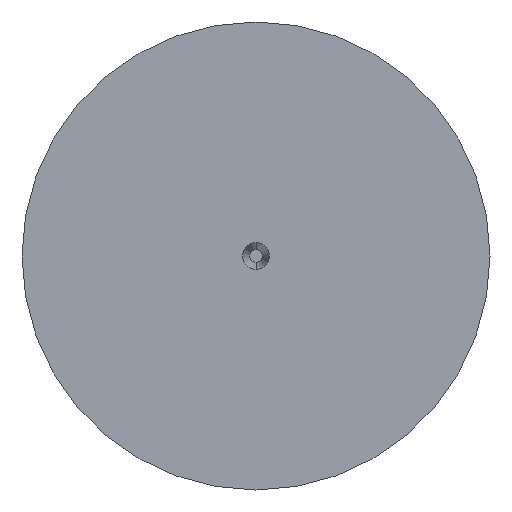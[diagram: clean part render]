
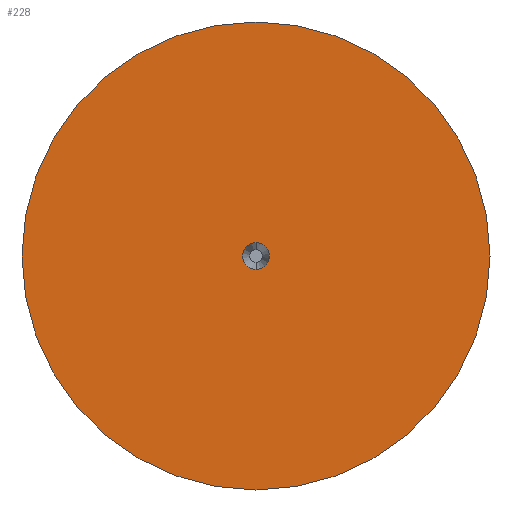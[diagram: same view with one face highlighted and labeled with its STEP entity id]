
A CAD part, left-side view. The second image highlights one B-rep face of the part: STEP entity #228.
In plain terms, the highlighted planar face has unit normal (-1, 0, 0).
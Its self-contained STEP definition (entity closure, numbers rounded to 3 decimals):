
#3 = CARTESIAN_POINT ( 'NONE',  ( 0., 0., 0. ) ) ;
#4 = DIRECTION ( 'NONE',  ( 0., 0., 1. ) ) ;
#19 = CIRCLE ( 'NONE', #240, 2.6 ) ;
#29 = CARTESIAN_POINT ( 'NONE',  ( 0., 0., 0. ) ) ;
#30 = FACE_BOUND ( 'NONE', #72, .T. ) ;
#33 = VERTEX_POINT ( 'NONE', #58 ) ;
#39 = ORIENTED_EDGE ( 'NONE', *, *, #234, .T. ) ;
#53 = PLANE ( 'NONE',  #153 ) ;
#56 = DIRECTION ( 'NONE',  ( 0., 0., 1. ) ) ;
#58 = CARTESIAN_POINT ( 'NONE',  ( 0., 0., -2.6 ) ) ;
#72 = EDGE_LOOP ( 'NONE', ( #182, #104 ) ) ;
#81 = CARTESIAN_POINT ( 'NONE',  ( 0., 0., 0. ) ) ;
#85 = DIRECTION ( 'NONE',  ( 0., 0., 1. ) ) ;
#104 = ORIENTED_EDGE ( 'NONE', *, *, #269, .F. ) ;
#105 = EDGE_CURVE ( 'NONE', #293, #33, #19, .T. ) ;
#107 = CARTESIAN_POINT ( 'NONE',  ( 0., 0., 0. ) ) ;
#108 = DIRECTION ( 'NONE',  ( -1., 0., 0. ) ) ;
#109 = AXIS2_PLACEMENT_3D ( 'NONE', #3, #108, #266 ) ;
#113 = CIRCLE ( 'NONE', #109, 0.15 ) ;
#122 = VERTEX_POINT ( 'NONE', #129 ) ;
#124 = DIRECTION ( 'NONE',  ( 1., 0., 0. ) ) ;
#129 = CARTESIAN_POINT ( 'NONE',  ( 0., 0., -0.15 ) ) ;
#132 = EDGE_LOOP ( 'NONE', ( #239, #39 ) ) ;
#153 = AXIS2_PLACEMENT_3D ( 'NONE', #190, #124, #255 ) ;
#160 = AXIS2_PLACEMENT_3D ( 'NONE', #29, #167, #4 ) ;
#167 = DIRECTION ( 'NONE',  ( -1., 0., 0. ) ) ;
#168 = AXIS2_PLACEMENT_3D ( 'NONE', #81, #212, #56 ) ;
#179 = CARTESIAN_POINT ( 'NONE',  ( 0., 0., 2.6 ) ) ;
#180 = EDGE_CURVE ( 'NONE', #267, #122, #246, .T. ) ;
#182 = ORIENTED_EDGE ( 'NONE', *, *, #180, .F. ) ;
#190 = CARTESIAN_POINT ( 'NONE',  ( 0., 0., 0. ) ) ;
#206 = CARTESIAN_POINT ( 'NONE',  ( 0., 0., 0.15 ) ) ;
#212 = DIRECTION ( 'NONE',  ( -1., 0., 0. ) ) ;
#228 = ADVANCED_FACE ( 'NONE', ( #30, #280 ), #53, .F. ) ;
#234 = EDGE_CURVE ( 'NONE', #33, #293, #273, .T. ) ;
#236 = DIRECTION ( 'NONE',  ( -1., 0., 0. ) ) ;
#239 = ORIENTED_EDGE ( 'NONE', *, *, #105, .T. ) ;
#240 = AXIS2_PLACEMENT_3D ( 'NONE', #107, #236, #85 ) ;
#246 = CIRCLE ( 'NONE', #168, 0.15 ) ;
#255 = DIRECTION ( 'NONE',  ( 0., 0., -1. ) ) ;
#266 = DIRECTION ( 'NONE',  ( 0., 0., 1. ) ) ;
#267 = VERTEX_POINT ( 'NONE', #206 ) ;
#269 = EDGE_CURVE ( 'NONE', #122, #267, #113, .T. ) ;
#273 = CIRCLE ( 'NONE', #160, 2.6 ) ;
#280 = FACE_OUTER_BOUND ( 'NONE', #132, .T. ) ;
#293 = VERTEX_POINT ( 'NONE', #179 ) ;
